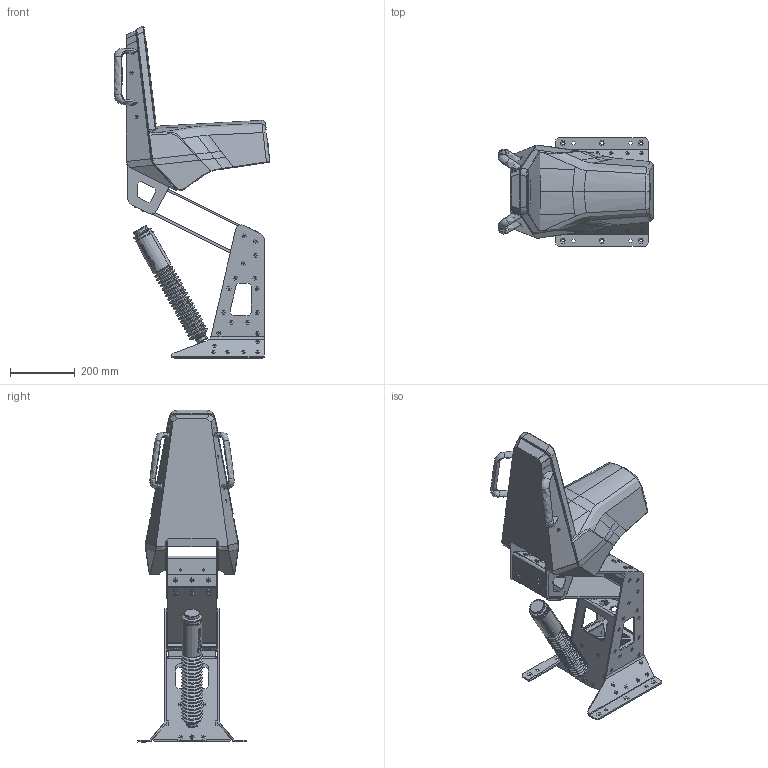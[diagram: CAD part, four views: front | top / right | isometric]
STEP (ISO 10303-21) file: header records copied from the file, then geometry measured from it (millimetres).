
FILE_DESCRIPTION (( 'STEP AP203' ), '1' );
FILE_NAME ('1070 - Simpel.STEP', '2024-08-29T12:32:56', ( '' ), ( '' ), 'SwSTEP 2.0', 'SolidWorks 2024', '' );
FILE_SCHEMA (( 'CONFIG_CONTROL_DESIGN' ));
Products named in the file (1): 1070 - Simpel
Bounding box: 479.72 x 333.86 x 1022.21 mm (x, y, z)
Volume: 13441742.5 mm3; surface area: 1968447.2 mm2
Topology: 11 solids, 14 shells, 3467 faces, 8416 edges, 5098 vertices
Faces by surface type: plane 1242, bspline 1087, cylinder 528, cone 318, torus 270, sphere 22
Entity records: 154157 total; most frequent: CARTESIAN_POINT 80153, ORIENTED_EDGE 16672, DIRECTION 13300, EDGE_CURVE 8336, VERTEX_POINT 5080, AXIS2_PLACEMENT_3D 4662, VECTOR 3976, LINE 3976
